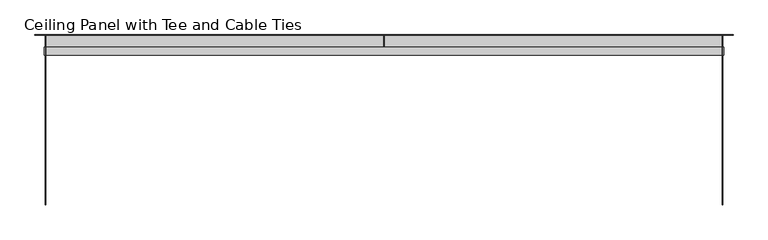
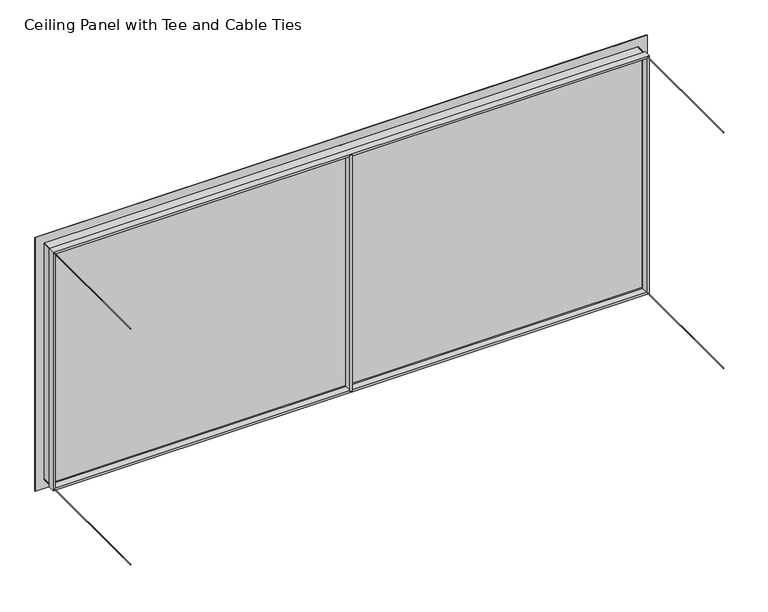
"""IFC4 building model written with IfcOpenShell, lengths in millimetres: plate geometry, Ceiling Panel with Tee and Cable Ties : Ceiling Panel (Vinyl) with Tee and Cable Ties Edge."""

from ifc_helpers import new_model, si_unit, point, frame, frame_2d, origin, origin_with_axes, place, context, project, spatial, polyline, circle_curve, trimmed, segment, composite_curve, outline, extrude, faceted_brep, source, transform, mapped, element, save


def ceiling_panel_with_tee_and_cable_ties_7c64ddbc(model_context):
    return source(origin(), model_context, "Body", "SolidModel", [
        extrude(outline(composite_curve([segment(trimmed(circle_curve(frame_2d((505.0, 600.0000002)), 0.5), [point((505.0, 600.5000002))], [point((505.0, 599.5000002))], False, "CARTESIAN"), True, "CONTINUOUS"), segment(trimmed(circle_curve(frame_2d((505.0, 600.0000002)), 0.5), [point((505.0, 599.5000002))], [point((505.0, 600.5000002))], False, "CARTESIAN"), True, "CONTINUOUS")], self_intersect=False)), frame((0.0, -300.0, 0.0), z_axis=(0.0, 1.0, 0.0), x_axis=(0.0, 0.0, 1.0)), (0.0, 0.0, 1.0), 300.0),
        extrude(outline(composite_curve([segment(trimmed(circle_curve(frame_2d((505.0, -600.0000002)), 0.5), [point((505.0, -599.5000002))], [point((505.0, -600.5000002))], False, "CARTESIAN"), True, "CONTINUOUS"), segment(trimmed(circle_curve(frame_2d((505.0, -600.0000002)), 0.5), [point((505.0, -600.5000002))], [point((505.0, -599.5000002))], False, "CARTESIAN"), True, "CONTINUOUS")], self_intersect=False)), frame((0.0, -300.0, 0.0), z_axis=(0.0, 1.0, 0.0), x_axis=(0.0, 0.0, 1.0)), (0.0, 0.0, 1.0), 300.0),
        extrude(outline(composite_curve([segment(trimmed(circle_curve(frame_2d((0.0, 600.0000002)), 0.5), [point((0.0, 600.5000002))], [point((0.0, 599.5000002))], False, "CARTESIAN"), True, "CONTINUOUS"), segment(trimmed(circle_curve(frame_2d((0.0, 600.0000002)), 0.5), [point((0.0, 599.5000002))], [point((0.0, 600.5000002))], False, "CARTESIAN"), True, "CONTINUOUS")], self_intersect=False)), frame((0.0, -300.0, 0.0), z_axis=(0.0, 1.0, 0.0), x_axis=(0.0, 0.0, 1.0)), (0.0, 0.0, 1.0), 300.0),
        extrude(outline(composite_curve([segment(trimmed(circle_curve(frame_2d((0.0, -600.0000002)), 0.5), [point((0.0, -599.5000002))], [point((0.0, -600.5000002))], False, "CARTESIAN"), True, "CONTINUOUS"), segment(trimmed(circle_curve(frame_2d((0.0, -600.0000002)), 0.5), [point((0.0, -600.5000002))], [point((0.0, -599.5000002))], False, "CARTESIAN"), True, "CONTINUOUS")], self_intersect=False)), frame((0.0, -300.0, 0.0), z_axis=(0.0, 1.0, 0.0), x_axis=(0.0, 0.0, 1.0)), (0.0, 0.0, 1.0), 300.0),
        extrude(outline(polyline([(19.0, 2.0), (19.0, 1.0), (0.5, 1.0), (0.5, -20.0), (2.5, -20.0), (2.5, -34.0), (-2.5, -34.0), (-2.5, -20.0), (-0.5, -20.0), (-0.5, 1.0), (-19.0, 1.0), (-19.0, 2.0), (19.0, 2.0)])), origin_with_axes(), (0.0, 0.0, 1.0), 505.0),
        faceted_brep([(581.0000002, 1.0, 486.0), (581.0000002, 2.0, 486.0), (581.0000002, 2.0, 19.0), (581.0000002, 1.0, 19.0), (599.5000002, -20.0, 504.5), (599.5000002, 1.0, 504.5), (599.5000002, 1.0, 0.5), (599.5000002, -20.0, 0.5), (597.5000002, -34.0, 502.5), (597.5000002, -20.0, 502.5), (597.5000002, -20.0, 2.5), (597.5000002, -34.0, 2.5), (602.5000002, -20.0, 507.5), (602.5000002, -34.0, 507.5), (602.5000002, -34.0, -2.5), (602.5000002, -20.0, -2.5), (600.5000002, 1.0, 505.5), (600.5000002, -20.0, 505.5), (600.5000002, -20.0, -0.5), (600.5000002, 1.0, -0.5), (619.0000002, 2.0, 524.0), (619.0000002, 1.0, 524.0), (619.0000002, 1.0, -19.0), (619.0000002, 2.0, -19.0), (-581.0000002, 2.0, 19.0), (-581.0000002, 1.0, 19.0), (-599.5000002, 1.0, 0.5), (-599.5000002, -20.0, 0.5), (-597.5000002, -20.0, 2.5), (-597.5000002, -34.0, 2.5), (-602.5000002, -34.0, -2.5), (-602.5000002, -20.0, -2.5), (-600.5000002, -20.0, -0.5), (-600.5000002, 1.0, -0.5), (-619.0000002, 1.0, -19.0), (-619.0000002, 2.0, -19.0), (-581.0000002, 2.0, 486.0), (-581.0000002, 1.0, 486.0), (-599.5000002, 1.0, 504.5), (-599.5000002, -20.0, 504.5), (-597.5000002, -20.0, 502.5), (-597.5000002, -34.0, 502.5), (-602.5000002, -34.0, 507.5), (-602.5000002, -20.0, 507.5), (-600.5000002, -20.0, 505.5), (-600.5000002, 1.0, 505.5), (-619.0000002, 1.0, 524.0), (-619.0000002, 2.0, 524.0)], [[[0, 1, 2, 3]], [[4, 5, 6, 7]], [[8, 9, 10, 11]], [[12, 13, 14, 15]], [[16, 17, 18, 19]], [[20, 21, 22, 23]], [[3, 2, 24, 25]], [[7, 6, 26, 27]], [[11, 10, 28, 29]], [[15, 14, 30, 31]], [[19, 18, 32, 33]], [[23, 22, 34, 35]], [[25, 24, 36, 37]], [[27, 26, 38, 39]], [[29, 28, 40, 41]], [[31, 30, 42, 43]], [[33, 32, 44, 45]], [[35, 34, 46, 47]], [[23, 35, 47, 20], [1, 36, 24, 2]], [[37, 36, 1, 0]], [[5, 38, 26, 6], [3, 25, 37, 0]], [[39, 38, 5, 4]], [[7, 27, 39, 4], [9, 40, 28, 10]], [[41, 40, 9, 8]], [[13, 42, 30, 14], [11, 29, 41, 8]], [[43, 42, 13, 12]], [[15, 31, 43, 12], [17, 44, 32, 18]], [[45, 44, 17, 16]], [[21, 46, 34, 22], [19, 33, 45, 16]], [[47, 46, 21, 20]]]),
        extrude(outline(polyline([(600.0000002, -15.0), (-600.0000002, -15.0), (-600.0000002, 0.0), (600.0000002, 0.0), (600.0000002, -15.0)])), origin_with_axes(), (0.0, 0.0, 1.0), 505.0),
    ])


if __name__ == "__main__":
    model = new_model("IFC4")
    model_context = context("Model", 3, world=origin())
    ifc_project = project(units=[si_unit("LENGTHUNIT", "METRE", prefix="MILLI")], contexts=[model_context])
    site = spatial("IfcSite", under=ifc_project)
    building = spatial("IfcBuilding", under=site)
    placement = place(None, origin())
    ceiling_panel_with_tee_and_cable_ties_shape = ceiling_panel_with_tee_and_cable_ties_7c64ddbc(model_context)
    element("IfcPlate", 1, ObjectType="Ceiling Panel with Tee and Cable Ties : Ceiling Panel (Vinyl) with Tee and Cable Ties Edge", at=placement, inside=building, context=model_context, shape_type="MappedRepresentation", body=[
        mapped(ceiling_panel_with_tee_and_cable_ties_shape, transform((0.0, 0.0, 0.0), x_axis=(1.0, 0.0, 0.0), y_axis=(0.0, 1.0, 0.0), z_axis=(0.0, 0.0, 1.0))),
    ])
    save(model, "model.ifc")
